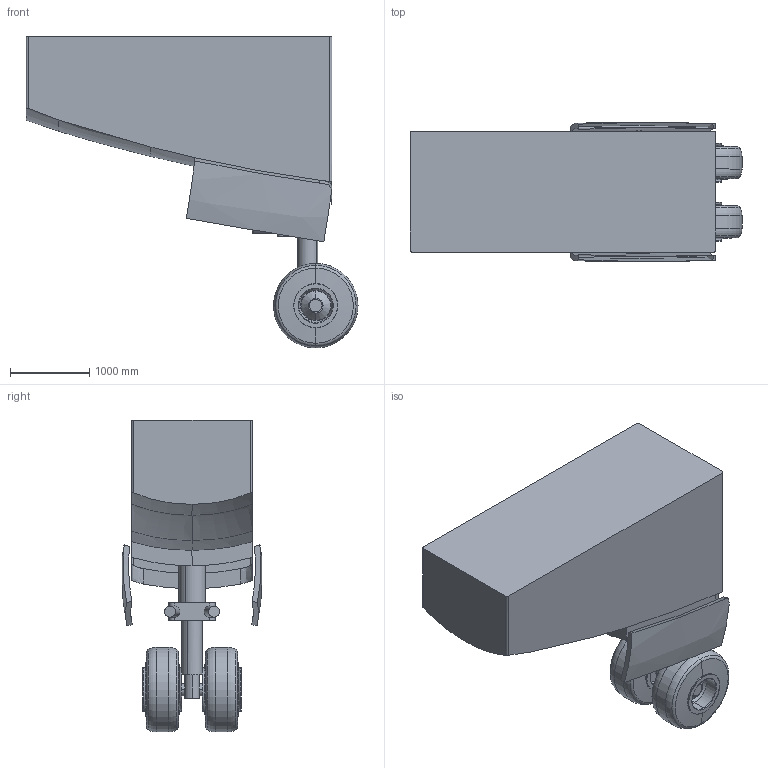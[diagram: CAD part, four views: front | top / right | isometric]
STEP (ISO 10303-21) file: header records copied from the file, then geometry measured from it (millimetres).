
FILE_DESCRIPTION(('CATIA V5 STEP Exchange'),'2;1');
FILE_NAME('C:\Users\ww962c\Desktop\CATIA Working\CRM-HL\NLGR01.stp','2022-12-08T19:09:34+00:00',('none'),('none'),'CATIA Version 5-6 Release 2018 SP6 HF6','CATIA V5 STEP AP203','none');
FILE_SCHEMA(('CONFIG_CONTROL_DESIGN'));
Length unit declared in the file: inch
Products named in the file (1): Part18
Bounding box: 4191 x 1762.95 x 3937 mm (x, y, z)
Surface area: 45754710.1 mm2 (no closed solid volume)
Topology: 0 solids, 9 shells, 157 faces, 335 edges, 206 vertices
Faces by surface type: torus 40, cylinder 39, plane 36, bspline 20, cone 8, revolution 8, extrusion 6
Entity records: 19180 total; most frequent: CARTESIAN_POINT 16107, ORIENTED_EDGE 650, DIRECTION 473, EDGE_CURVE 333, AXIS2_PLACEMENT_3D 267, VERTEX_POINT 199, EDGE_LOOP 165, CIRCLE 161
